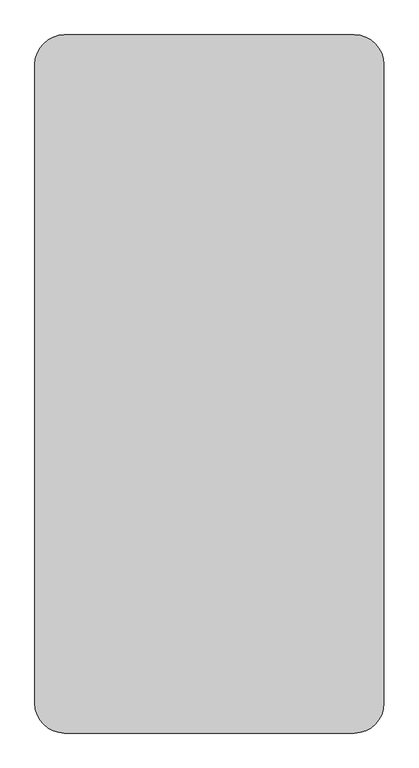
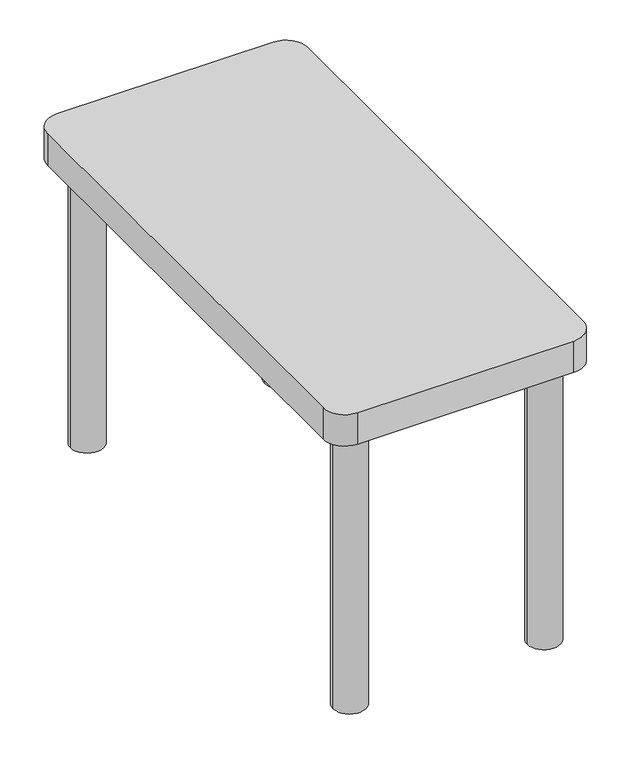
"""IFC4 building model written with IfcOpenShell, lengths in millimetres: furniture geometry, Стол-Концевой : 0600 x 1200 мм."""

from ifc_helpers import new_model, si_unit, point, frame, frame_2d, origin, origin_with_axes, place, context, project, spatial, polyline, circle_curve, trimmed, segment, composite_curve, outline, extrude, source, transform, mapped, element, save


def furniture_1144f3dd(model_context):
    return source(origin(), model_context, "Body", "SweptSolid", [
        extrude(outline(composite_curve([segment(polyline([(552.9336303, -447.6), (54.5336303, -447.6)]), True, "CONTINUOUS"), segment(trimmed(circle_curve(frame_2d((54.5336303, -396.8)), 50.8), [point((54.5336303, -447.6))], [point((3.7336303, -396.8))], False, "CARTESIAN"), True, "CONTINUOUS"), segment(polyline([(3.7336303, -396.8), (3.7336303, 701.6)]), True, "CONTINUOUS"), segment(trimmed(circle_curve(frame_2d((54.5336303, 701.6)), 50.8), [point((3.7336303, 701.6))], [point((54.5336303, 752.4))], False, "CARTESIAN"), True, "CONTINUOUS"), segment(polyline([(54.5336303, 752.4), (552.9336303, 752.4)]), True, "CONTINUOUS"), segment(trimmed(circle_curve(frame_2d((552.9336303, 701.6)), 50.8), [point((552.9336303, 752.4))], [point((603.7336303, 701.6))], False, "CARTESIAN"), True, "CONTINUOUS"), segment(polyline([(603.7336303, 701.6), (603.7336303, -396.8)]), True, "CONTINUOUS"), segment(trimmed(circle_curve(frame_2d((552.9336303, -396.8)), 50.8), [point((603.7336303, -396.8))], [point((552.9336303, -447.6))], False, "CARTESIAN"), True, "CONTINUOUS")], self_intersect=False)), frame((0.0, 0.0, 685.8), z_axis=(0.0, 0.0, 1.0), x_axis=(1.0, 0.0, 0.0)), (0.0, 0.0, 1.0), 76.2),
        extrude(outline(composite_curve([segment(trimmed(circle_curve(frame_2d((79.9336303, 676.2)), 38.1), [point((41.8336303, 676.2))], [point((118.0336303, 676.2))], False, "CARTESIAN"), True, "CONTINUOUS"), segment(trimmed(circle_curve(frame_2d((79.9336303, 676.2)), 38.1), [point((118.0336303, 676.2))], [point((41.8336303, 676.2))], False, "CARTESIAN"), True, "CONTINUOUS")], self_intersect=False)), origin_with_axes(), (0.0, 0.0, 1.0), 685.8),
        extrude(outline(composite_curve([segment(trimmed(circle_curve(frame_2d((79.9336303, -371.4)), 38.1), [point((41.8336303, -371.4))], [point((118.0336303, -371.4))], False, "CARTESIAN"), True, "CONTINUOUS"), segment(trimmed(circle_curve(frame_2d((79.9336303, -371.4)), 38.1), [point((118.0336303, -371.4))], [point((41.8336303, -371.4))], False, "CARTESIAN"), True, "CONTINUOUS")], self_intersect=False)), origin_with_axes(), (0.0, 0.0, 1.0), 685.8),
        extrude(outline(composite_curve([segment(trimmed(circle_curve(frame_2d((527.5336303, -371.4)), 38.1), [point((489.4336303, -371.4))], [point((565.6336303, -371.4))], False, "CARTESIAN"), True, "CONTINUOUS"), segment(trimmed(circle_curve(frame_2d((527.5336303, -371.4)), 38.1), [point((565.6336303, -371.4))], [point((489.4336303, -371.4))], False, "CARTESIAN"), True, "CONTINUOUS")], self_intersect=False)), origin_with_axes(), (0.0, 0.0, 1.0), 685.8),
        extrude(outline(composite_curve([segment(trimmed(circle_curve(frame_2d((527.5336303, 676.2)), 38.1), [point((489.4336303, 676.2))], [point((565.6336303, 676.2))], False, "CARTESIAN"), True, "CONTINUOUS"), segment(trimmed(circle_curve(frame_2d((527.5336303, 676.2)), 38.1), [point((565.6336303, 676.2))], [point((489.4336303, 676.2))], False, "CARTESIAN"), True, "CONTINUOUS")], self_intersect=False)), origin_with_axes(), (0.0, 0.0, 1.0), 685.8),
    ])


if __name__ == "__main__":
    model = new_model("IFC4")
    model_context = context("Model", 3, world=origin())
    ifc_project = project(units=[si_unit("LENGTHUNIT", "METRE", prefix="MILLI")], contexts=[model_context])
    site = spatial("IfcSite", under=ifc_project)
    building = spatial("IfcBuilding", under=site)
    placement = place(None, origin())
    furniture_shape = furniture_1144f3dd(model_context)
    element("IfcFurniture", 1, ObjectType="Стол-Концевой : 0600 x 1200 мм", at=placement, inside=building, context=model_context, shape_type="MappedRepresentation", body=[
        mapped(furniture_shape, transform((0.0, 0.0, 0.0), x_axis=(1.0, 0.0, 0.0), y_axis=(0.0, 1.0, 0.0), z_axis=(0.0, 0.0, 1.0))),
    ])
    save(model, "model.ifc")
